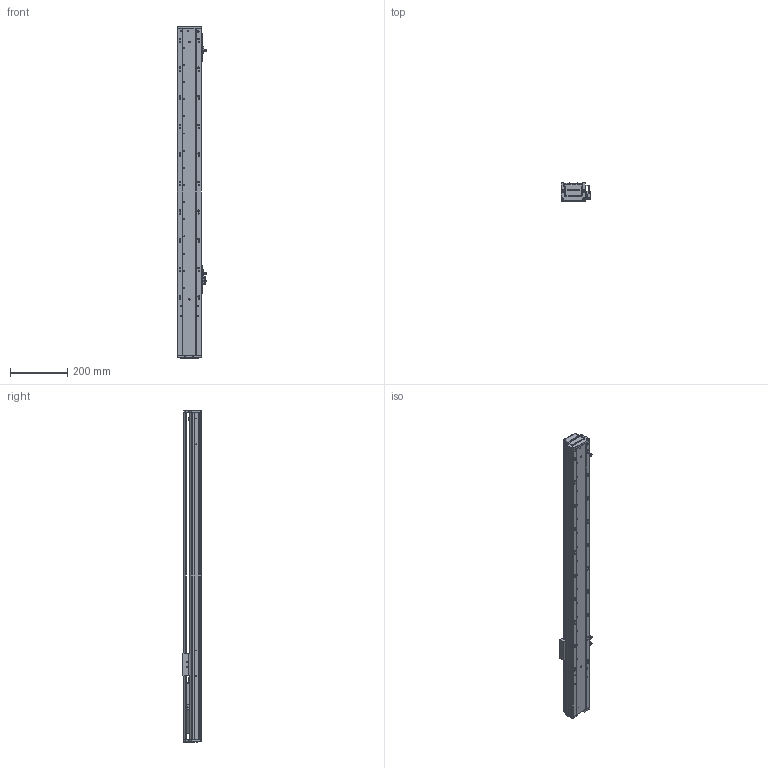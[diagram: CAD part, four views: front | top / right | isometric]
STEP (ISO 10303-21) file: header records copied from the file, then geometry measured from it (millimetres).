
FILE_DESCRIPTION (( 'STEP AP203' ), '1' );
FILE_NAME ('RY80-L1620-300-IK.SLDASM_800.step', '2021-02-22T05:29:24', ( '盈信电脑' ), ( '东莞市道滘镇水果街19号' ), 'SwSTEP 2.0', 'SolidWorks 2012', '' );
FILE_SCHEMA (( 'CONFIG_CONTROL_DESIGN' ));
Products named in the file (14): RY80-L1620-300-IK.SLDASM_800; RY80囀离萇儂啣; 侂狟100W; 滅袉蝶18-24; RY80囀离ヶ啣; RY80俋离覜茼え; 覜茼ん672; 672嫖萇羲壽假蚾釱; 滅袉蝶18-10; RY80-300倰第奻裔啣-IK_800; RY80綴裔啣; RY80萇儂傷盓傅釱; RY80臏賑輸; RY80-300倰第菁釱-IK_800
Assembly tree (16 placements, depth 2):
  RY80-L1620-300-IK.SLDASM_800
    RY80-300倰第菁釱-IK_800
    RY80臏賑輸
    RY80-300倰第奻裔啣-IK_800
    RY80萇儂傷盓傅釱
    RY80綴裔啣
    滅袉蝶18-10
    672嫖萇羲壽假蚾釱  x2
    覜茼ん672  x3
    RY80俋离覜茼え
    侂狟100W
    RY80囀离萇儂啣
    RY80囀离ヶ啣
    滅袉蝶18-24
Bounding box: 103.7 x 65 x 1161 mm (x, y, z)
Volume: 1917373.4 mm3; surface area: 811295.9 mm2
Topology: 16 solids, 16 shells, 2203 faces, 6148 edges, 4011 vertices
Faces by surface type: plane 1298, cylinder 764, cone 97, bspline 44
Entity records: 71051 total; most frequent: CARTESIAN_POINT 18703, ORIENTED_EDGE 11016, DIRECTION 9817, EDGE_CURVE 5508, VERTEX_POINT 3627, VECTOR 3547, LINE 3547, AXIS2_PLACEMENT_3D 3135
